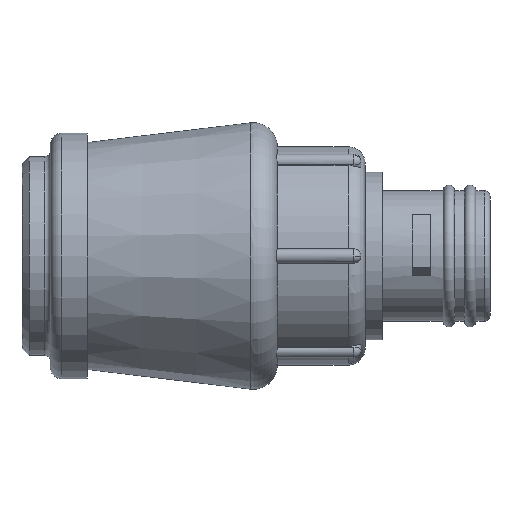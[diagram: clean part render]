
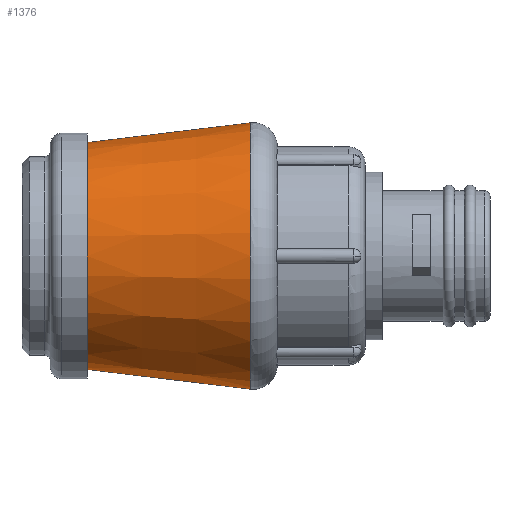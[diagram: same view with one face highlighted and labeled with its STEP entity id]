
A CAD part, left-side view. The second image highlights one B-rep face of the part: STEP entity #1376.
In plain terms, the highlighted conical face has half-angle 6.883 degrees and reference radius 43.469 mm.
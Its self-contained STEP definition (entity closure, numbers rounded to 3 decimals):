
#38=CONICAL_SURFACE('',#1566,43.469,0.12);
#139=LINE('',#2766,#204);
#204=VECTOR('',#1971,43.469);
#363=FACE_OUTER_BOUND('',#454,.T.);
#454=EDGE_LOOP('',(#1275,#1276,#1277,#1278));
#487=CIRCLE('',#1459,46.939);
#545=CIRCLE('',#1565,40.);
#623=VERTEX_POINT('',#2533);
#677=VERTEX_POINT('',#2763);
#782=EDGE_CURVE('',#623,#623,#487,.T.);
#877=EDGE_CURVE('',#677,#677,#545,.T.);
#878=EDGE_CURVE('',#623,#677,#139,.T.);
#1275=ORIENTED_EDGE('',*,*,#782,.F.);
#1276=ORIENTED_EDGE('',*,*,#878,.T.);
#1277=ORIENTED_EDGE('',*,*,#877,.T.);
#1278=ORIENTED_EDGE('',*,*,#878,.F.);
#1376=ADVANCED_FACE('',(#363),#38,.T.);
#1459=AXIS2_PLACEMENT_3D('',#2535,#1722,#1723);
#1565=AXIS2_PLACEMENT_3D('',#2764,#1967,#1968);
#1566=AXIS2_PLACEMENT_3D('',#2765,#1969,#1970);
#1722=DIRECTION('center_axis',(0.,-1.,0.));
#1723=DIRECTION('ref_axis',(1.,0.,0.));
#1967=DIRECTION('center_axis',(0.,-1.,0.));
#1968=DIRECTION('ref_axis',(1.,0.,0.));
#1969=DIRECTION('center_axis',(0.,-1.,0.));
#1970=DIRECTION('ref_axis',(0.,0.,-1.));
#1971=DIRECTION('',(0.,0.993,-0.12));
#2533=CARTESIAN_POINT('',(0.,40.519,46.939));
#2535=CARTESIAN_POINT('Origin',(0.,40.519,0.));
#2763=CARTESIAN_POINT('',(0.,98.,40.));
#2764=CARTESIAN_POINT('Origin',(0.,98.,0.));
#2765=CARTESIAN_POINT('Origin',(0.,69.259,0.));
#2766=CARTESIAN_POINT('',(0.,69.259,43.469));
